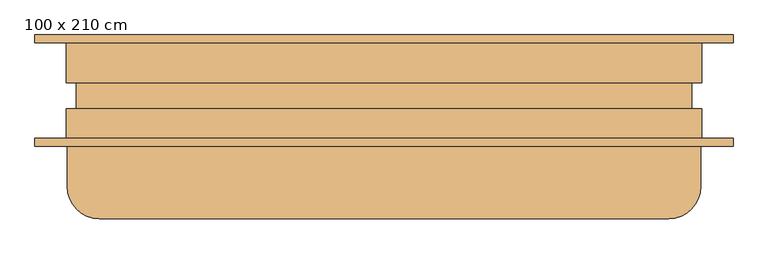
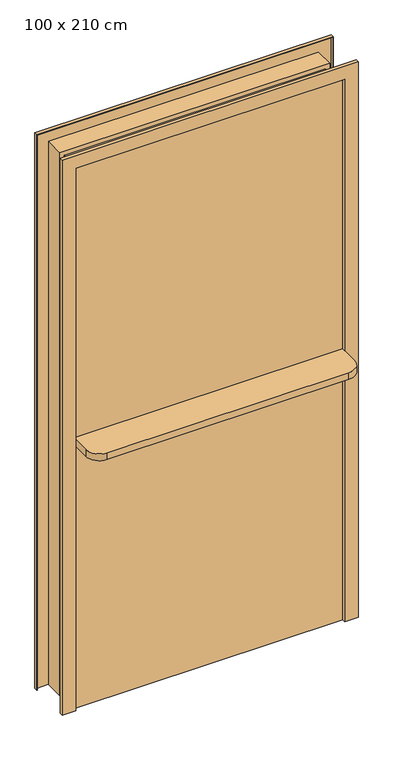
"""IFC4 building model written with IfcOpenShell, lengths in millimetres: door geometry, Dutch_door_-_2_stacked_leaves_2298 : 100 x 210 cm."""

from ifc_helpers import new_model, si_unit, frame, origin, place, context, project, spatial, polyline, circle_curve, outline, extrude, faceted_brep, source, transform, mapped, element, save
from ifc_brep_helpers import plane_surface, cylinder_surface, advanced_brep


def door_100_x_210_cm_7dd9b6bc(model_context):
    return source(origin(), model_context, "Body", "SolidModel", [
        faceted_brep([(-550.8, 87.7, 0.0), (-500.0, 87.7, 0.0), (-500.0, 13.9, 0.0), (-484.125, 13.9, 0.0), (-484.125, -30.55, 0.0), (-500.0, -30.55, 0.0), (-500.0, -87.7, 0.0), (-550.8, -87.7, 0.0), (-550.8, -75.0, 0.0), (-549.2125, -75.0, 0.0), (-549.2125, -86.1125, 0.0), (-501.5875, -86.1125, 0.0), (-501.5875, -28.9625, 0.0), (-485.7125, -28.9625, 0.0), (-485.7125, 12.3125, 0.0), (-501.5875, 12.3125, 0.0), (-501.5875, 86.1125, 0.0), (-549.2125, 86.1125, 0.0), (-549.2125, 75.0, 0.0), (-550.8, 75.0, 0.0), (-550.8, 75.0, 2184.4), (-550.8, 87.7, 2184.4), (-549.2125, 75.0, 2182.8125), (549.2125, 75.0, 2182.8125), (549.2125, 75.0, 0.0), (550.8, 75.0, 0.0), (550.8, 75.0, 2184.4), (-549.2125, 86.1125, 2182.8125), (-501.5875, 86.1125, 2135.1875), (501.5875, 86.1125, 2135.1875), (501.5875, 86.1125, 0.0), (549.2125, 86.1125, 0.0), (549.2125, 86.1125, 2182.8125), (-501.5875, 12.3125, 2135.1875), (-485.7125, 12.3125, 2119.3125), (485.7125, 12.3125, 2119.3125), (485.7125, 12.3125, 0.0), (501.5875, 12.3125, 0.0), (501.5875, 12.3125, 2135.1875), (-485.7125, -28.9625, 2119.3125), (-501.5875, -28.9625, 2135.1875), (501.5875, -28.9625, 2135.1875), (501.5875, -28.9625, 0.0), (485.7125, -28.9625, 0.0), (485.7125, -28.9625, 2119.3125), (-501.5875, -86.1125, 2135.1875), (-549.2125, -86.1125, 2182.8125), (549.2125, -86.1125, 2182.8125), (549.2125, -86.1125, 0.0), (501.5875, -86.1125, 0.0), (501.5875, -86.1125, 2135.1875), (-549.2125, -75.0, 2182.8125), (-550.8, -75.0, 2184.4), (550.8, -75.0, 2184.4), (550.8, -75.0, 0.0), (549.2125, -75.0, 0.0), (549.2125, -75.0, 2182.8125), (-550.8, -87.7, 2184.4), (-500.0, -87.7, 2133.6), (500.0, -87.7, 2133.6), (500.0, -87.7, 0.0), (550.8, -87.7, 0.0), (550.8, -87.7, 2184.4), (-500.0, -30.55, 2133.6), (-484.125, -30.55, 2117.725), (484.125, -30.55, 2117.725), (484.125, -30.55, 0.0), (500.0, -30.55, 0.0), (500.0, -30.55, 2133.6), (-484.125, 13.9, 2117.725), (-500.0, 13.9, 2133.6), (500.0, 13.9, 2133.6), (500.0, 13.9, 0.0), (484.125, 13.9, 0.0), (484.125, 13.9, 2117.725), (-500.0, 87.7, 2133.6), (550.8, 87.7, 2184.4), (550.8, 87.7, 0.0), (500.0, 87.7, 0.0), (500.0, 87.7, 2133.6)], [[[0, 1, 2, 3, 4, 5, 6, 7, 8, 9, 10, 11, 12, 13, 14, 15, 16, 17, 18, 19]], [[19, 20, 21, 0]], [[18, 22, 23, 24, 25, 26, 20, 19]], [[17, 27, 22, 18]], [[16, 28, 29, 30, 31, 32, 27, 17]], [[15, 33, 28, 16]], [[14, 34, 35, 36, 37, 38, 33, 15]], [[13, 39, 34, 14]], [[12, 40, 41, 42, 43, 44, 39, 13]], [[11, 45, 40, 12]], [[10, 46, 47, 48, 49, 50, 45, 11]], [[9, 51, 46, 10]], [[8, 52, 53, 54, 55, 56, 51, 9]], [[7, 57, 52, 8]], [[6, 58, 59, 60, 61, 62, 57, 7]], [[5, 63, 58, 6]], [[4, 64, 65, 66, 67, 68, 63, 5]], [[3, 69, 64, 4]], [[2, 70, 71, 72, 73, 74, 69, 3]], [[1, 75, 70, 2]], [[0, 21, 76, 77, 78, 79, 75, 1]], [[26, 25, 77, 76]], [[77, 25, 24, 31, 30, 37, 36, 43, 42, 49, 48, 55, 54, 61, 60, 67, 66, 73, 72, 78]], [[32, 31, 24, 23]], [[38, 37, 30, 29]], [[44, 43, 36, 35]], [[50, 49, 42, 41]], [[56, 55, 48, 47]], [[62, 61, 54, 53]], [[68, 67, 60, 59]], [[74, 73, 66, 65]], [[79, 78, 72, 71]], [[20, 26, 76, 21]], [[27, 32, 23, 22]], [[33, 38, 29, 28]], [[39, 44, 35, 34]], [[45, 50, 41, 40]], [[51, 56, 47, 46]], [[57, 62, 53, 52]], [[63, 68, 59, 58]], [[69, 74, 65, 64]], [[75, 79, 71, 70]]]),
        extrude(outline(polyline([(500.0, -30.55), (500.0, -75.0), (-500.0, -75.0), (-500.0, -30.55), (500.0, -30.55)])), frame((0.0, 0.0, 1066.8), z_axis=(0.0, 0.0, 1.0), x_axis=(1.0, 0.0, 0.0)), (0.0, 0.0, 1.0), 1066.8),
        advanced_brep(
        [(500.0, -30.55, 0.0), (-500.0, -30.55, 0.0), (-500.0, -30.55, 1066.8), (500.0, -30.55, 1066.8), (500.0, -75.0, 0.0), (500.0, -75.0, 1040.6391515), (-500.0, -75.0, 1040.6391515), (-500.0, -75.0, 0.0), (-500.0, -151.3516411, 1066.8), (-449.2, -202.1516411, 1066.8), (449.2, -202.1516411, 1066.8), (500.0, -151.3516411, 1066.8), (-500.0, -151.3516411, 1040.6391515), (500.0, -151.3516411, 1040.6391515), (449.2, -202.1516411, 1040.6391515), (-449.2, -202.1516411, 1040.6391515)],
        [
            (0, 1),
            (1, 2),
            (2, 3),
            (3, 0),
            (4, 5),
            (5, 6),
            (6, 7),
            (7, 4),
            (2, 8),
            (8, 9, circle_curve(frame((-449.2, -151.3516411, 1066.8), z_axis=(0.0, 0.0, 1.0), x_axis=(1.0, 0.0, 0.0)), 50.8)),
            (9, 10),
            (10, 11, circle_curve(frame((449.2, -151.3516411, 1066.8), z_axis=(0.0, 0.0, 1.0), x_axis=(1.0, 0.0, 0.0)), 50.8)),
            (11, 3),
            (1, 7),
            (6, 12),
            (12, 8),
            (0, 4),
            (11, 13),
            (13, 5),
            (13, 14, circle_curve(frame((449.2, -151.3516411, 1040.6391515), z_axis=(0.0, 0.0, -1.0), x_axis=(1.0, 0.0, 0.0)), 50.8)),
            (14, 15),
            (15, 12, circle_curve(frame((-449.2, -151.3516411, 1040.6391515), z_axis=(0.0, 0.0, -1.0), x_axis=(1.0, 0.0, 0.0)), 50.8)),
            (10, 14),
            (9, 15),
        ],
        [
            plane_surface(frame((-500.0, -30.55, 1066.8), z_axis=(0.0, 1.0, 0.0), x_axis=(-1.0, 0.0, 0.0))),
            plane_surface(frame((-500.0, -75.0, 1066.8), z_axis=(0.0, -1.0, 0.0), x_axis=(1.0, 0.0, 0.0))),
            plane_surface(frame((500.0, -30.55, 1066.8), z_axis=(0.0, 0.0, 1.0), x_axis=(0.0, -1.0, 0.0))),
            plane_surface(frame((-500.0, -30.55, 1066.8), z_axis=(-1.0, 0.0, 0.0), x_axis=(0.0, -1.0, 0.0))),
            plane_surface(frame((-500.0, -30.55, 0.0), z_axis=(0.0, 0.0, -1.0), x_axis=(0.0, -1.0, 0.0))),
            plane_surface(frame((500.0, -30.55, 0.0), z_axis=(1.0, 0.0, 0.0), x_axis=(0.0, -1.0, 0.0))),
            plane_surface(frame((500.0, -30.55, 1040.6391515), z_axis=(0.0, 0.0, -1.0), x_axis=(0.0, 1.0, 0.0))),
            cylinder_surface(frame((449.2, -151.3516411, 1040.6391515), z_axis=(0.0, 0.0, 1.0), x_axis=(1.0, 0.0, 0.0)), 50.8),
            plane_surface(frame((449.2, -202.1516411, 1066.8), z_axis=(0.0, -1.0, 0.0), x_axis=(0.0, 0.0, -1.0))),
            cylinder_surface(frame((-449.2, -151.3516411, 1040.6391515), z_axis=(0.0, 0.0, 1.0), x_axis=(1.0, 0.0, 0.0)), 50.8),
        ],
        [
            (0, [[1, 2, 3, 4]]),
            (1, [[5, 6, 7, 8]]),
            (2, [[9, 10, 11, 12, 13, -3]]),
            (3, [[-2, 14, -7, 15, 16, -9]]),
            (4, [[17, -8, -14, -1]]),
            (5, [[18, 19, -5, -17, -4, -13]]),
            (6, [[-15, -6, -19, 20, 21, 22]]),
            (7, [[23, -20, -18, -12]]),
            (8, [[24, -21, -23, -11]]),
            (9, [[-16, -22, -24, -10]]),
        ],
    ),
    ])


if __name__ == "__main__":
    model = new_model("IFC4")
    model_context = context("Model", 3, world=origin())
    ifc_project = project(units=[si_unit("LENGTHUNIT", "METRE", prefix="MILLI")], contexts=[model_context])
    site = spatial("IfcSite", under=ifc_project)
    building = spatial("IfcBuilding", under=site)
    placement = place(None, origin())
    door_100_x_210_cm_shape = door_100_x_210_cm_7dd9b6bc(model_context)
    element("IfcDoor", 1, ObjectType="Dutch_door_-_2_stacked_leaves_2298 : 100 x 210 cm", at=placement, inside=building, context=model_context, shape_type="MappedRepresentation", body=[
        mapped(door_100_x_210_cm_shape, transform((0.0, 0.0, 0.0), x_axis=(1.0, 0.0, 0.0), y_axis=(0.0, 1.0, 0.0), z_axis=(0.0, 0.0, 1.0))),
    ])
    save(model, "model.ifc")
